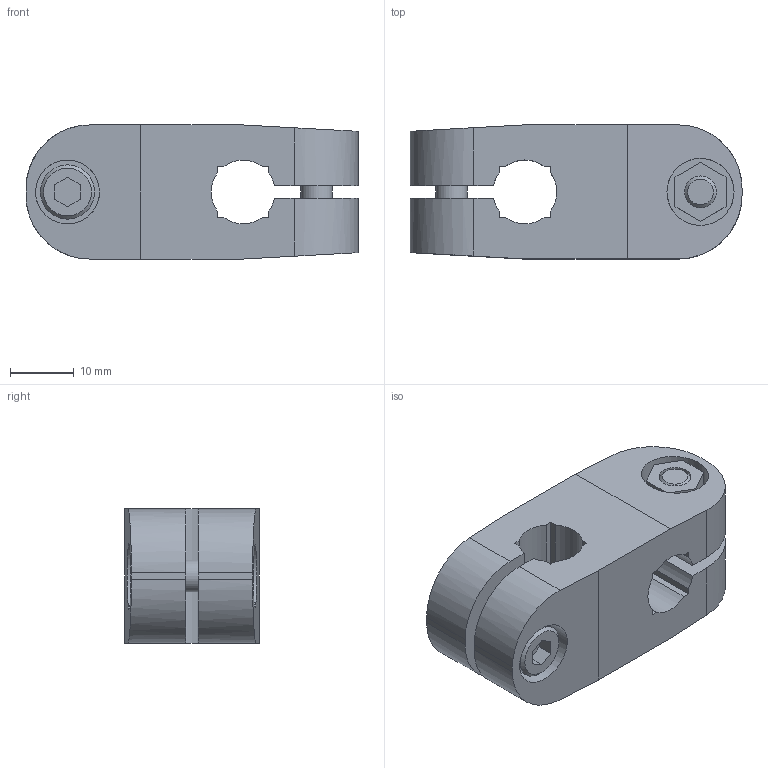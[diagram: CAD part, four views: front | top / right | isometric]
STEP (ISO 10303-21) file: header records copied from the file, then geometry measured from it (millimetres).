
FILE_DESCRIPTION( ( 'STEP AP203' ), '1' );
FILE_NAME( 'C:/Temp/Ganter_Step_05_03_2020/data/3_7/gn174/Two-way connector GN 174-B10-B10.stp', '2020-03-12T14:39:14', ( 'License CC BY-ND 4.0' ), ( 'CADENAS' ), ' ', 'PARTsolutions', ' ' );
FILE_SCHEMA( ( 'CONFIG_CONTROL_DESIGN' ) );
Length unit declared in the file: millimetre
Products named in the file (1): _Two-way connector GN 174-B10-B10
Bounding box: 52 x 21 x 21 mm (x, y, z)
Volume: 15576.3 mm3; surface area: 7680 mm2
Topology: 1 solids, 1 shells, 100 faces, 259 edges, 173 vertices
Faces by surface type: plane 68, cylinder 28, cone 4
Full cylindrical faces by diameter (mm): 5 x4, 8.5 x2, 10 x2, 10.5 x2
Entity records: 2988 total; most frequent: CARTESIAN_POINT 509, DIRECTION 502, ORIENTED_EDGE 480, EDGE_CURVE 240, LINE 180, VECTOR 180, VERTEX_POINT 168, AXIS2_PLACEMENT_3D 161
